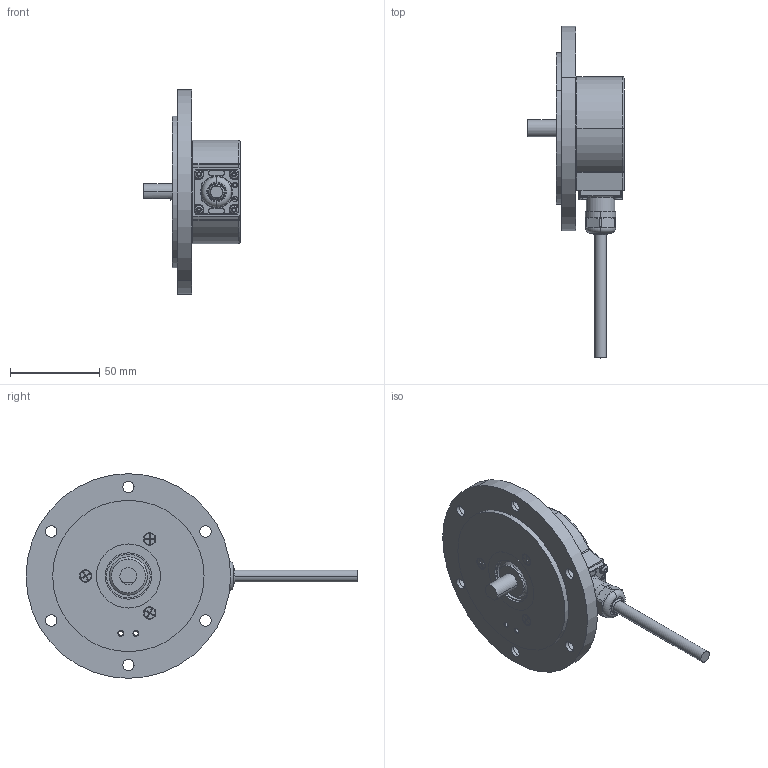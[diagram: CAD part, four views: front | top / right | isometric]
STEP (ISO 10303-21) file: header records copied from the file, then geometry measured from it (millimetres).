
FILE_DESCRIPTION (( 'STEP AP203' ), '1' );
FILE_NAME ('K58I.OXX.XXXXX.XS1E52A.6XR31.XXXX.step', '2025-12-08T16:13:20', ( '' ), ( '' ), 'SwSTEP 2.0', 'SolidWorks 2021', '' );
FILE_SCHEMA (( 'CONFIG_CONTROL_DESIGN' ));
Length unit declared in the file: millimetre
Products named in the file (1): K58I.OXX.XXXXX.XS1E52A.6XR31.XXXX
Bounding box: 54.06 x 186.5 x 115 mm (x, y, z)
Volume: 213455.4 mm3; surface area: 61350.2 mm2
Topology: 10 solids, 10 shells, 636 faces, 1563 edges, 980 vertices
Faces by surface type: cylinder 283, plane 191, cone 68, bspline 40, torus 38, sphere 16
Entity records: 20664 total; most frequent: CARTESIAN_POINT 5490, DIRECTION 3273, ORIENTED_EDGE 3102, EDGE_CURVE 1551, AXIS2_PLACEMENT_3D 1287, VERTEX_POINT 980, EDGE_LOOP 715, LINE 699
